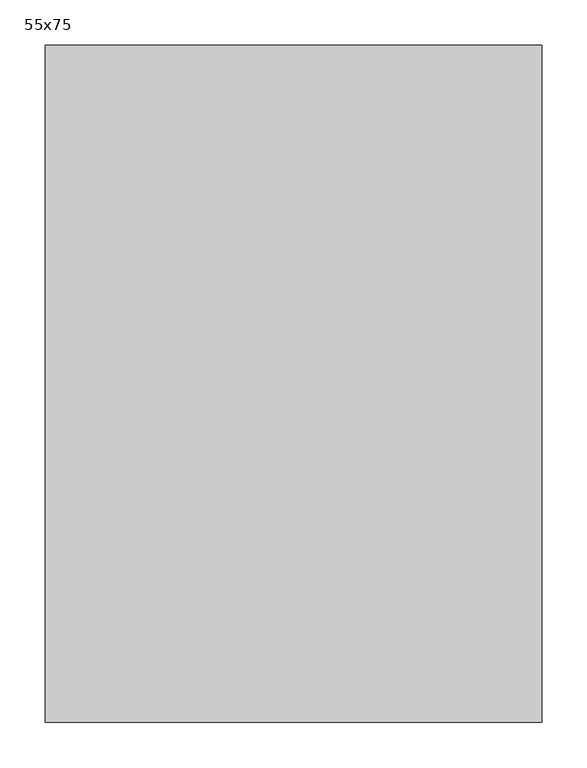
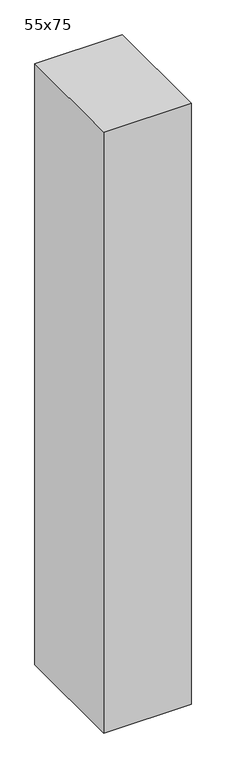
"""IFC4 building model written with IfcOpenShell, lengths in millimetres: column geometry, 混凝土柱-矩形 : 55x75."""

from ifc_helpers import new_model, si_unit, frame, origin, place, context, project, spatial, polyline, outline, extrude, source, transform, mapped, element, save


def column_55x75_de16586b(model_context):
    return source(origin(), model_context, "Body", "SweptSolid", [
        extrude(outline(polyline([(275.0, 375.0), (275.0, -375.0), (-275.0, -375.0), (-275.0, 375.0), (275.0, 375.0)])), frame((0.0, 0.0, 200.0), z_axis=(0.0, 0.0, 1.0), x_axis=(1.0, 0.0, 0.0)), (0.0, 0.0, 1.0), 4000.0),
    ])


if __name__ == "__main__":
    model = new_model("IFC4")
    model_context = context("Model", 3, world=origin())
    ifc_project = project(units=[si_unit("LENGTHUNIT", "METRE", prefix="MILLI")], contexts=[model_context])
    site = spatial("IfcSite", under=ifc_project)
    building = spatial("IfcBuilding", under=site)
    placement = place(None, origin())
    column_55x75_shape = column_55x75_de16586b(model_context)
    element("IfcColumn", 1, ObjectType="混凝土柱-矩形 : 55x75", at=placement, inside=building, context=model_context, shape_type="MappedRepresentation", body=[
        mapped(column_55x75_shape, transform((0.0, 0.0, 0.0), x_axis=(1.0, 0.0, 0.0), y_axis=(0.0, 1.0, 0.0), z_axis=(0.0, 0.0, 1.0))),
    ])
    save(model, "model.ifc")
